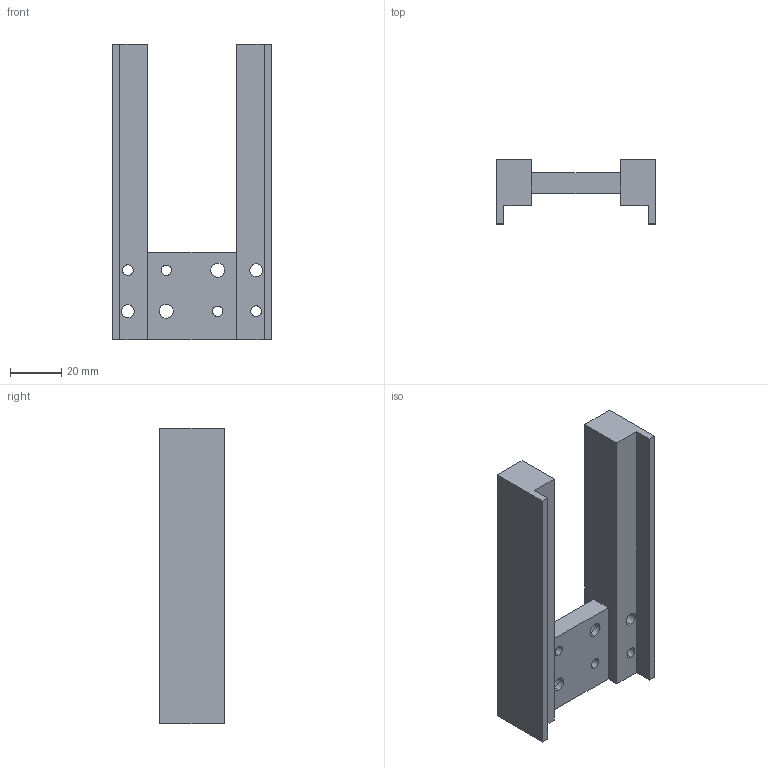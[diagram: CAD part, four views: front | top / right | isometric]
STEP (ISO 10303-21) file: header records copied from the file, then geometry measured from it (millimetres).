
FILE_DESCRIPTION (( 'STEP AP203' ), '1' );
FILE_NAME ('PPE40-P2.step', '2017-02-15T12:25:45', ( '' ), ( '' ), 'SwSTEP 2.0', 'SolidWorks 2012', '' );
FILE_SCHEMA (( 'CONFIG_CONTROL_DESIGN' ));
Length unit declared in the file: millimetre
Products named in the file (1): PPE40-P2
Bounding box: 62 x 25 x 115 mm (x, y, z)
Volume: 67909 mm3; surface area: 22614.9 mm2
Topology: 1 solids, 1 shells, 40 faces, 108 edges, 72 vertices
Faces by surface type: cylinder 20, plane 20
Entity records: 1381 total; most frequent: DIRECTION 230, CARTESIAN_POINT 221, ORIENTED_EDGE 216, EDGE_CURVE 108, AXIS2_PLACEMENT_3D 81, VERTEX_POINT 72, LINE 68, VECTOR 68
